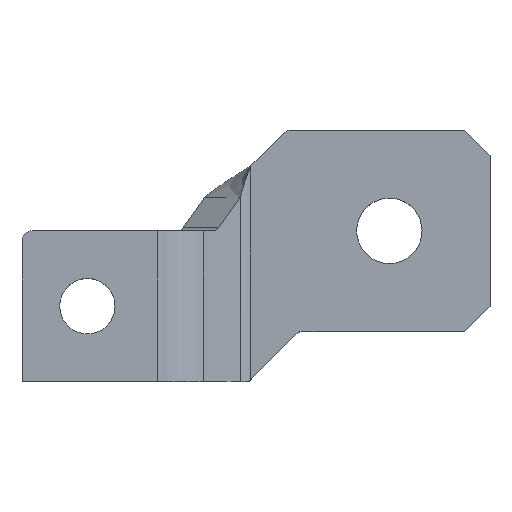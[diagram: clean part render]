
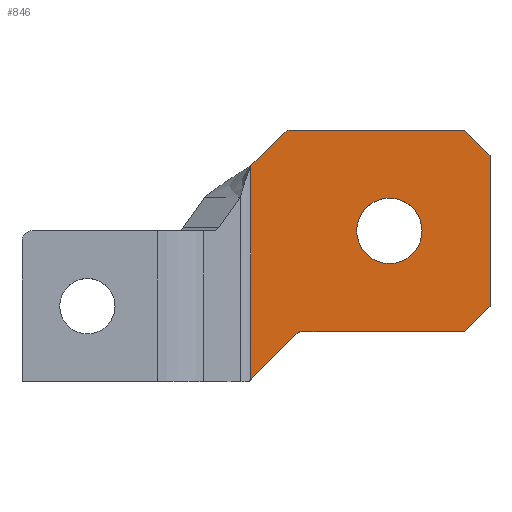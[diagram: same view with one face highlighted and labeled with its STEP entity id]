
A CAD part, top view. The second image highlights one B-rep face of the part: STEP entity #846.
In plain terms, the highlighted planar face has unit normal (0, 0, 1).
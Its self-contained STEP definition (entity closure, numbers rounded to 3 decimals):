
#12 = LINE ( 'NONE', #368, #940 ) ;
#13 = VERTEX_POINT ( 'NONE', #234 ) ;
#25 = CIRCLE ( 'NONE', #101, 6.5 ) ;
#30 = VERTEX_POINT ( 'NONE', #1158 ) ;
#34 = AXIS2_PLACEMENT_3D ( 'NONE', #998, #714, #362 ) ;
#55 = ORIENTED_EDGE ( 'NONE', *, *, #560, .T. ) ;
#80 = VECTOR ( 'NONE', #466, 1000. ) ;
#83 = CARTESIAN_POINT ( 'NONE',  ( 93., 15., -2. ) ) ;
#100 = CARTESIAN_POINT ( 'NONE',  ( 45.486, 0.492, -2. ) ) ;
#101 = AXIS2_PLACEMENT_3D ( 'NONE', #443, #523, #683 ) ;
#111 = DIRECTION ( 'NONE',  ( 1., 0., 0. ) ) ;
#121 = EDGE_CURVE ( 'NONE', #30, #331, #25, .T. ) ;
#144 = CARTESIAN_POINT ( 'NONE',  ( 54.414, 9.414, -2. ) ) ;
#205 = ORIENTED_EDGE ( 'NONE', *, *, #618, .T. ) ;
#214 = DIRECTION ( 'NONE',  ( -1., 0., 0. ) ) ;
#234 = CARTESIAN_POINT ( 'NONE',  ( 55.828, 10., -2. ) ) ;
#239 = ORIENTED_EDGE ( 'NONE', *, *, #979, .T. ) ;
#262 = LINE ( 'NONE', #838, #1106 ) ;
#263 = EDGE_CURVE ( 'NONE', #1028, #1087, #695, .T. ) ;
#270 = ORIENTED_EDGE ( 'NONE', *, *, #121, .F. ) ;
#282 = ORIENTED_EDGE ( 'NONE', *, *, #952, .T. ) ;
#283 = DIRECTION ( 'NONE',  ( 0., 0., 1. ) ) ;
#302 = EDGE_CURVE ( 'NONE', #946, #314, #12, .T. ) ;
#306 = CARTESIAN_POINT ( 'NONE',  ( 113., 50., -2. ) ) ;
#314 = VERTEX_POINT ( 'NONE', #713 ) ;
#319 = CARTESIAN_POINT ( 'NONE',  ( 55., 10., -2. ) ) ;
#323 = LINE ( 'NONE', #83, #80 ) ;
#326 = CARTESIAN_POINT ( 'NONE',  ( 45.486, 0., -2. ) ) ;
#327 = EDGE_CURVE ( 'NONE', #1043, #487, #323, .T. ) ;
#331 = VERTEX_POINT ( 'NONE', #561 ) ;
#362 = DIRECTION ( 'NONE',  ( -1., 0., 0. ) ) ;
#367 = EDGE_CURVE ( 'NONE', #411, #1028, #1056, .T. ) ;
#368 = CARTESIAN_POINT ( 'NONE',  ( 52.57, 50., -2. ) ) ;
#369 = VECTOR ( 'NONE', #1072, 1000. ) ;
#395 = CIRCLE ( 'NONE', #34, 2. ) ;
#396 = AXIS2_PLACEMENT_3D ( 'NONE', #580, #841, #214 ) ;
#408 = VECTOR ( 'NONE', #1041, 1000. ) ;
#411 = VERTEX_POINT ( 'NONE', #100 ) ;
#415 = VERTEX_POINT ( 'NONE', #1027 ) ;
#420 = CARTESIAN_POINT ( 'NONE',  ( 88., 10., -2. ) ) ;
#443 = CARTESIAN_POINT ( 'NONE',  ( 73., 30., -2. ) ) ;
#462 = EDGE_LOOP ( 'NONE', ( #1114, #927, #698, #990, #1162, #239, #630, #282, #55, #619, #205 ) ) ;
#466 = DIRECTION ( 'NONE',  ( 0.707, 0.707, 0. ) ) ;
#482 = LINE ( 'NONE', #319, #666 ) ;
#484 = DIRECTION ( 'NONE',  ( 0., 0., -1. ) ) ;
#487 = VERTEX_POINT ( 'NONE', #747 ) ;
#523 = DIRECTION ( 'NONE',  ( 0., 0., 1. ) ) ;
#546 = DIRECTION ( 'NONE',  ( -0.707, -0.707, 0. ) ) ;
#548 = ORIENTED_EDGE ( 'NONE', *, *, #748, .F. ) ;
#560 = EDGE_CURVE ( 'NONE', #993, #415, #1107, .T. ) ;
#561 = CARTESIAN_POINT ( 'NONE',  ( 79.5, 30., -2. ) ) ;
#574 = EDGE_CURVE ( 'NONE', #314, #411, #824, .T. ) ;
#576 = DIRECTION ( 'NONE',  ( -1., 0., 0. ) ) ;
#580 = CARTESIAN_POINT ( 'NONE',  ( 108.718, 0., -2. ) ) ;
#618 = EDGE_CURVE ( 'NONE', #873, #946, #395, .T. ) ;
#619 = ORIENTED_EDGE ( 'NONE', *, *, #885, .T. ) ;
#630 = ORIENTED_EDGE ( 'NONE', *, *, #327, .T. ) ;
#636 = CARTESIAN_POINT ( 'NONE',  ( 55.828, 8., -2. ) ) ;
#666 = VECTOR ( 'NONE', #949, 1000. ) ;
#668 = CARTESIAN_POINT ( 'NONE',  ( 53.398, 50., -2. ) ) ;
#677 = CARTESIAN_POINT ( 'NONE',  ( 93., 45., -2. ) ) ;
#683 = DIRECTION ( 'NONE',  ( 1., 0., 0. ) ) ;
#695 = LINE ( 'NONE', #804, #369 ) ;
#698 = ORIENTED_EDGE ( 'NONE', *, *, #367, .T. ) ;
#704 = EDGE_CURVE ( 'NONE', #1087, #13, #1054, .T. ) ;
#713 = CARTESIAN_POINT ( 'NONE',  ( 45.486, 42.916, -2. ) ) ;
#714 = DIRECTION ( 'NONE',  ( 0., 0., 1. ) ) ;
#732 = CARTESIAN_POINT ( 'NONE',  ( 73., 30., -2. ) ) ;
#735 = DIRECTION ( 'NONE',  ( 0., 0., 1. ) ) ;
#736 = FACE_BOUND ( 'NONE', #1109, .T. ) ;
#747 = CARTESIAN_POINT ( 'NONE',  ( 93., 15., -2. ) ) ;
#748 = EDGE_CURVE ( 'NONE', #331, #30, #976, .T. ) ;
#764 = CARTESIAN_POINT ( 'NONE',  ( 88., 50., -2. ) ) ;
#804 = CARTESIAN_POINT ( 'NONE',  ( 45., 0., -2. ) ) ;
#824 = LINE ( 'NONE', #326, #864 ) ;
#829 = DIRECTION ( 'NONE',  ( -1., 0., 0. ) ) ;
#833 = DIRECTION ( 'NONE',  ( -1., 0., 0. ) ) ;
#838 = CARTESIAN_POINT ( 'NONE',  ( 93., 50., -2. ) ) ;
#841 = DIRECTION ( 'NONE',  ( 0., 0., -1. ) ) ;
#846 = ADVANCED_FACE ( 'NONE', ( #736, #935 ), #932, .F. ) ;
#864 = VECTOR ( 'NONE', #951, 1000. ) ;
#873 = VERTEX_POINT ( 'NONE', #668 ) ;
#885 = EDGE_CURVE ( 'NONE', #415, #873, #1166, .T. ) ;
#919 = CARTESIAN_POINT ( 'NONE',  ( 44.172, 2., -2. ) ) ;
#927 = ORIENTED_EDGE ( 'NONE', *, *, #574, .T. ) ;
#932 = PLANE ( 'NONE',  #396 ) ;
#935 = FACE_OUTER_BOUND ( 'NONE', #462, .T. ) ;
#937 = AXIS2_PLACEMENT_3D ( 'NONE', #919, #735, #829 ) ;
#940 = VECTOR ( 'NONE', #546, 1000. ) ;
#946 = VERTEX_POINT ( 'NONE', #1125 ) ;
#949 = DIRECTION ( 'NONE',  ( 1., 0., 0. ) ) ;
#951 = DIRECTION ( 'NONE',  ( 0., -1., 0. ) ) ;
#952 = EDGE_CURVE ( 'NONE', #487, #993, #262, .T. ) ;
#959 = AXIS2_PLACEMENT_3D ( 'NONE', #636, #484, #833 ) ;
#974 = VECTOR ( 'NONE', #576, 1000. ) ;
#976 = CIRCLE ( 'NONE', #1137, 6.5 ) ;
#979 = EDGE_CURVE ( 'NONE', #13, #1043, #482, .T. ) ;
#990 = ORIENTED_EDGE ( 'NONE', *, *, #263, .T. ) ;
#993 = VERTEX_POINT ( 'NONE', #677 ) ;
#998 = CARTESIAN_POINT ( 'NONE',  ( 53.398, 48., -2. ) ) ;
#1027 = CARTESIAN_POINT ( 'NONE',  ( 88., 50., -2. ) ) ;
#1028 = VERTEX_POINT ( 'NONE', #1045 ) ;
#1041 = DIRECTION ( 'NONE',  ( -0.707, 0.707, 0. ) ) ;
#1043 = VERTEX_POINT ( 'NONE', #420 ) ;
#1045 = CARTESIAN_POINT ( 'NONE',  ( 45.586, 0.586, -2. ) ) ;
#1054 = CIRCLE ( 'NONE', #959, 2. ) ;
#1056 = CIRCLE ( 'NONE', #937, 2. ) ;
#1072 = DIRECTION ( 'NONE',  ( 0.707, 0.707, 0. ) ) ;
#1087 = VERTEX_POINT ( 'NONE', #144 ) ;
#1106 = VECTOR ( 'NONE', #1116, 1000. ) ;
#1107 = LINE ( 'NONE', #764, #408 ) ;
#1109 = EDGE_LOOP ( 'NONE', ( #548, #270 ) ) ;
#1114 = ORIENTED_EDGE ( 'NONE', *, *, #302, .T. ) ;
#1116 = DIRECTION ( 'NONE',  ( 0., 1., 0. ) ) ;
#1125 = CARTESIAN_POINT ( 'NONE',  ( 51.984, 49.414, -2. ) ) ;
#1137 = AXIS2_PLACEMENT_3D ( 'NONE', #732, #283, #111 ) ;
#1158 = CARTESIAN_POINT ( 'NONE',  ( 66.5, 30., -2. ) ) ;
#1162 = ORIENTED_EDGE ( 'NONE', *, *, #704, .T. ) ;
#1166 = LINE ( 'NONE', #306, #974 ) ;
